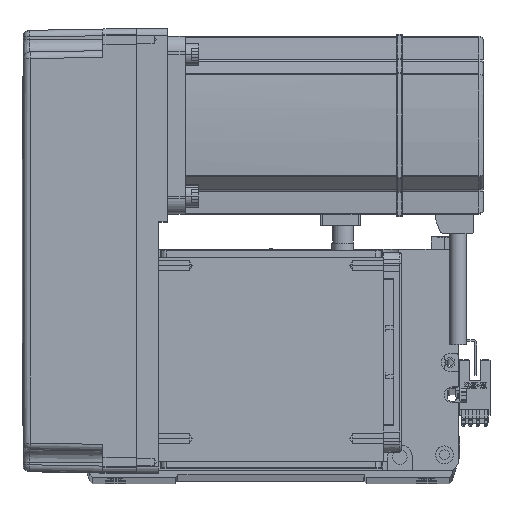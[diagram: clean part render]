
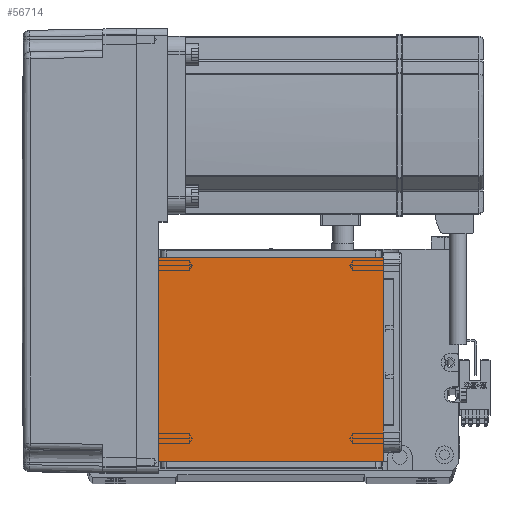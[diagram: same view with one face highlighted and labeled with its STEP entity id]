
A CAD part, top view. The second image highlights one B-rep face of the part: STEP entity #56714.
In plain terms, the highlighted planar face has unit normal (0, 0, 1).
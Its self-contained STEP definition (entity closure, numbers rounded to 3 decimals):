
#286 = VERTEX_POINT ( 'NONE', #19426 ) ;
#493 = CARTESIAN_POINT ( 'NONE',  ( -50.5, 111.5, 115. ) ) ;
#7842 = DIRECTION ( 'NONE',  ( 0., 0., 1. ) ) ;
#8741 = AXIS2_PLACEMENT_3D ( 'NONE', #58992, #7842, #17336 ) ;
#9725 = CARTESIAN_POINT ( 'NONE',  ( -70.004, 111.5, 115. ) ) ;
#10615 = FACE_OUTER_BOUND ( 'NONE', #27205, .T. ) ;
#12485 = DIRECTION ( 'NONE',  ( 0., -1., 0. ) ) ;
#12666 = PLANE ( 'NONE',  #8741 ) ;
#13180 = LINE ( 'NONE', #29730, #37242 ) ;
#14083 = EDGE_CURVE ( 'NONE', #286, #19009, #13180, .T. ) ;
#14417 = VECTOR ( 'NONE', #60172, 1000. ) ;
#15474 = VECTOR ( 'NONE', #12485, 1000. ) ;
#16343 = EDGE_CURVE ( 'NONE', #286, #20881, #50170, .T. ) ;
#17336 = DIRECTION ( 'NONE',  ( 1., 0., 0. ) ) ;
#17374 = CARTESIAN_POINT ( 'NONE',  ( -50.5, 20., 115. ) ) ;
#18701 = EDGE_CURVE ( 'NONE', #33059, #20881, #51258, .T. ) ;
#19009 = VERTEX_POINT ( 'NONE', #17374 ) ;
#19426 = CARTESIAN_POINT ( 'NONE',  ( 50.5, 20., 115. ) ) ;
#20881 = VERTEX_POINT ( 'NONE', #22261 ) ;
#22261 = CARTESIAN_POINT ( 'NONE',  ( 50.5, 111.5, 115. ) ) ;
#22595 = ORIENTED_EDGE ( 'NONE', *, *, #18701, .F. ) ;
#27205 = EDGE_LOOP ( 'NONE', ( #22595, #30335, #49399, #31237 ) ) ;
#28614 = DIRECTION ( 'NONE',  ( 1., 0., 0. ) ) ;
#29730 = CARTESIAN_POINT ( 'NONE',  ( -70.004, 20., 115. ) ) ;
#30335 = ORIENTED_EDGE ( 'NONE', *, *, #32466, .T. ) ;
#31237 = ORIENTED_EDGE ( 'NONE', *, *, #16343, .T. ) ;
#32466 = EDGE_CURVE ( 'NONE', #33059, #19009, #48335, .T. ) ;
#33059 = VERTEX_POINT ( 'NONE', #493 ) ;
#34473 = DIRECTION ( 'NONE',  ( -1., 0., 0. ) ) ;
#37242 = VECTOR ( 'NONE', #34473, 1000. ) ;
#46307 = CARTESIAN_POINT ( 'NONE',  ( 50.5, 122., 115. ) ) ;
#48335 = LINE ( 'NONE', #54314, #15474 ) ;
#49399 = ORIENTED_EDGE ( 'NONE', *, *, #14083, .F. ) ;
#50170 = LINE ( 'NONE', #46307, #14417 ) ;
#51258 = LINE ( 'NONE', #9725, #57816 ) ;
#54314 = CARTESIAN_POINT ( 'NONE',  ( -50.5, 122., 115. ) ) ;
#56714 = ADVANCED_FACE ( 'NONE', ( #10615 ), #12666, .T. ) ;
#57816 = VECTOR ( 'NONE', #28614, 1000. ) ;
#58992 = CARTESIAN_POINT ( 'NONE',  ( 0., 0., 115. ) ) ;
#60172 = DIRECTION ( 'NONE',  ( 0., 1., 0. ) ) ;
